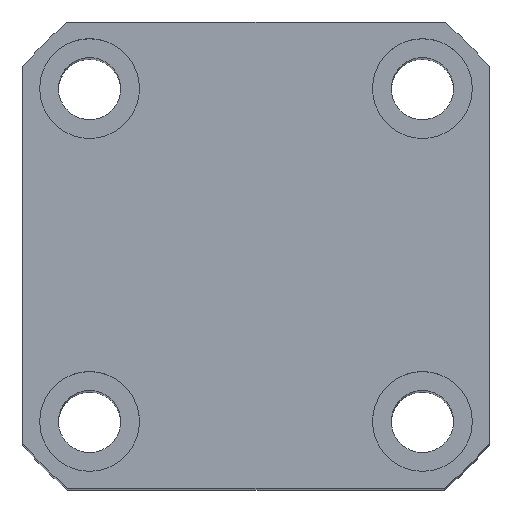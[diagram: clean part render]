
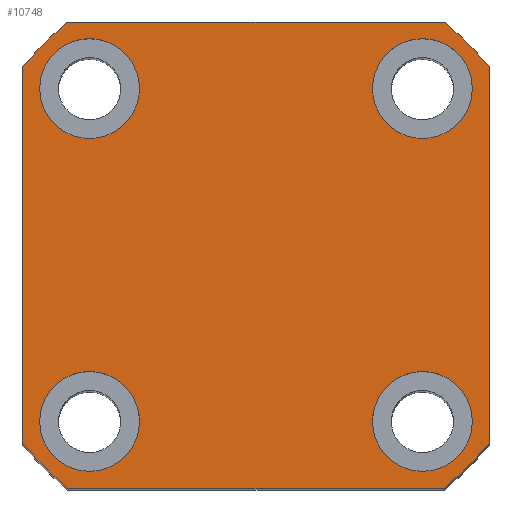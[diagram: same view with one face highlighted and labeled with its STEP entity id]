
A CAD part, top view. The second image highlights one B-rep face of the part: STEP entity #10748.
In plain terms, the highlighted planar face has unit normal (0, 0, 1).
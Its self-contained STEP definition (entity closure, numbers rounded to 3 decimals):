
#17 = VERTEX_POINT ( 'NONE', #8722 ) ;
#123 = CIRCLE ( 'NONE', #11797, 4.5 ) ;
#220 = EDGE_CURVE ( 'NONE', #1073, #8544, #9040, .T. ) ;
#264 = LINE ( 'NONE', #9321, #10986 ) ;
#275 = DIRECTION ( 'NONE',  ( 0., 0., 1. ) ) ;
#511 = EDGE_CURVE ( 'NONE', #11701, #9407, #1971, .T. ) ;
#522 = AXIS2_PLACEMENT_3D ( 'NONE', #11019, #4592, #12082 ) ;
#650 = DIRECTION ( 'NONE',  ( 0., 0., 1. ) ) ;
#916 = CARTESIAN_POINT ( 'NONE',  ( -10.5, 15.002, 103. ) ) ;
#921 = FACE_BOUND ( 'NONE', #2864, .T. ) ;
#996 = ORIENTED_EDGE ( 'NONE', *, *, #8215, .T. ) ;
#1073 = VERTEX_POINT ( 'NONE', #6758 ) ;
#1142 = VERTEX_POINT ( 'NONE', #11851 ) ;
#1180 = DIRECTION ( 'NONE',  ( 0., 0., 1. ) ) ;
#1206 = CARTESIAN_POINT ( 'NONE',  ( -15., 15.002, 103. ) ) ;
#1267 = VECTOR ( 'NONE', #9730, 1000. ) ;
#1315 = CIRCLE ( 'NONE', #13277, 4.5 ) ;
#1332 = CIRCLE ( 'NONE', #10462, 4.5 ) ;
#1732 = PLANE ( 'NONE',  #3772 ) ;
#1777 = EDGE_CURVE ( 'NONE', #10207, #4071, #1332, .T. ) ;
#1869 = AXIS2_PLACEMENT_3D ( 'NONE', #6348, #13853, #7428 ) ;
#1971 = CIRCLE ( 'NONE', #8377, 27. ) ;
#2263 = LINE ( 'NONE', #4484, #13009 ) ;
#2322 = ORIENTED_EDGE ( 'NONE', *, *, #9690, .F. ) ;
#2815 = CARTESIAN_POINT ( 'NONE',  ( 0., 0., 103. ) ) ;
#2864 = EDGE_LOOP ( 'NONE', ( #5750, #4397 ) ) ;
#2880 = EDGE_CURVE ( 'NONE', #8283, #8590, #1315, .T. ) ;
#2999 = ORIENTED_EDGE ( 'NONE', *, *, #13126, .F. ) ;
#3060 = CARTESIAN_POINT ( 'NONE',  ( -15., -14.998, 103. ) ) ;
#3092 = CIRCLE ( 'NONE', #522, 27. ) ;
#3111 = EDGE_CURVE ( 'NONE', #5064, #6732, #13217, .T. ) ;
#3253 = AXIS2_PLACEMENT_3D ( 'NONE', #10042, #3631, #11138 ) ;
#3441 = FACE_OUTER_BOUND ( 'NONE', #8109, .T. ) ;
#3516 = ORIENTED_EDGE ( 'NONE', *, *, #8833, .T. ) ;
#3552 = DIRECTION ( 'NONE',  ( 1., 0., 0. ) ) ;
#3577 = CARTESIAN_POINT ( 'NONE',  ( 21., 16.971, 103. ) ) ;
#3631 = DIRECTION ( 'NONE',  ( 0., 0., 1. ) ) ;
#3725 = CARTESIAN_POINT ( 'NONE',  ( -21., 16.971, 103. ) ) ;
#3772 = AXIS2_PLACEMENT_3D ( 'NONE', #2815, #11396, #4973 ) ;
#3790 = AXIS2_PLACEMENT_3D ( 'NONE', #4945, #12430, #6032 ) ;
#4071 = VERTEX_POINT ( 'NONE', #9846 ) ;
#4089 = LINE ( 'NONE', #12776, #1267 ) ;
#4132 = DIRECTION ( 'NONE',  ( 1., 0., 0. ) ) ;
#4176 = ORIENTED_EDGE ( 'NONE', *, *, #10501, .T. ) ;
#4205 = DIRECTION ( 'NONE',  ( 0., 0., 1. ) ) ;
#4397 = ORIENTED_EDGE ( 'NONE', *, *, #4751, .F. ) ;
#4412 = CARTESIAN_POINT ( 'NONE',  ( 19.5, 15., 103. ) ) ;
#4484 = CARTESIAN_POINT ( 'NONE',  ( -21., -21., 103. ) ) ;
#4579 = CARTESIAN_POINT ( 'NONE',  ( 10.5, 15., 103. ) ) ;
#4592 = DIRECTION ( 'NONE',  ( 0., 0., 1. ) ) ;
#4678 = ORIENTED_EDGE ( 'NONE', *, *, #220, .F. ) ;
#4751 = EDGE_CURVE ( 'NONE', #4071, #10207, #123, .T. ) ;
#4945 = CARTESIAN_POINT ( 'NONE',  ( 0., 0., 103. ) ) ;
#4959 = CARTESIAN_POINT ( 'NONE',  ( -16.971, -21., 103. ) ) ;
#4973 = DIRECTION ( 'NONE',  ( 1., 0., 0. ) ) ;
#5064 = VERTEX_POINT ( 'NONE', #4579 ) ;
#5087 = CARTESIAN_POINT ( 'NONE',  ( -19.5, -14.998, 103. ) ) ;
#5090 = LINE ( 'NONE', #6982, #13325 ) ;
#5188 = ORIENTED_EDGE ( 'NONE', *, *, #11416, .F. ) ;
#5228 = CARTESIAN_POINT ( 'NONE',  ( -15., 15.002, 103. ) ) ;
#5377 = EDGE_LOOP ( 'NONE', ( #10031, #2322 ) ) ;
#5750 = ORIENTED_EDGE ( 'NONE', *, *, #1777, .F. ) ;
#5961 = AXIS2_PLACEMENT_3D ( 'NONE', #6693, #275, #7759 ) ;
#6032 = DIRECTION ( 'NONE',  ( 1., 0., 0. ) ) ;
#6085 = CARTESIAN_POINT ( 'NONE',  ( 10.5, -14.998, 103. ) ) ;
#6285 = FACE_BOUND ( 'NONE', #11087, .T. ) ;
#6308 = DIRECTION ( 'NONE',  ( 1., 0., 0. ) ) ;
#6348 = CARTESIAN_POINT ( 'NONE',  ( 0., 0., 103. ) ) ;
#6693 = CARTESIAN_POINT ( 'NONE',  ( 15., 15., 103. ) ) ;
#6732 = VERTEX_POINT ( 'NONE', #4412 ) ;
#6758 = CARTESIAN_POINT ( 'NONE',  ( 19.5, -14.998, 103. ) ) ;
#6866 = EDGE_CURVE ( 'NONE', #7634, #17, #264, .T. ) ;
#6916 = CIRCLE ( 'NONE', #3790, 27. ) ;
#6982 = CARTESIAN_POINT ( 'NONE',  ( 21., 21., 103. ) ) ;
#7033 = ORIENTED_EDGE ( 'NONE', *, *, #511, .T. ) ;
#7071 = CARTESIAN_POINT ( 'NONE',  ( 15., -14.998, 103. ) ) ;
#7181 = ORIENTED_EDGE ( 'NONE', *, *, #13787, .T. ) ;
#7376 = DIRECTION ( 'NONE',  ( 1., 0., 0. ) ) ;
#7428 = DIRECTION ( 'NONE',  ( 1., 0., 0. ) ) ;
#7538 = ORIENTED_EDGE ( 'NONE', *, *, #10295, .T. ) ;
#7593 = CARTESIAN_POINT ( 'NONE',  ( -15., -14.998, 103. ) ) ;
#7634 = VERTEX_POINT ( 'NONE', #9307 ) ;
#7759 = DIRECTION ( 'NONE',  ( 1., 0., 0. ) ) ;
#8050 = EDGE_CURVE ( 'NONE', #9887, #11701, #4089, .T. ) ;
#8062 = DIRECTION ( 'NONE',  ( 1., 0., 0. ) ) ;
#8109 = EDGE_LOOP ( 'NONE', ( #3516, #7181, #9528, #996, #10942, #7033, #4176, #7538 ) ) ;
#8161 = DIRECTION ( 'NONE',  ( 1., 0., 0. ) ) ;
#8215 = EDGE_CURVE ( 'NONE', #17, #9887, #3092, .T. ) ;
#8257 = CARTESIAN_POINT ( 'NONE',  ( -21., -16.971, 103. ) ) ;
#8278 = EDGE_LOOP ( 'NONE', ( #5188, #13414 ) ) ;
#8279 = CIRCLE ( 'NONE', #3253, 4.5 ) ;
#8283 = VERTEX_POINT ( 'NONE', #11103 ) ;
#8377 = AXIS2_PLACEMENT_3D ( 'NONE', #10252, #10016, #8062 ) ;
#8544 = VERTEX_POINT ( 'NONE', #6085 ) ;
#8590 = VERTEX_POINT ( 'NONE', #5087 ) ;
#8677 = DIRECTION ( 'NONE',  ( 1., 0., 0. ) ) ;
#8722 = CARTESIAN_POINT ( 'NONE',  ( -16.971, 21., 103. ) ) ;
#8833 = EDGE_CURVE ( 'NONE', #1142, #12451, #5090, .T. ) ;
#8839 = DIRECTION ( 'NONE',  ( 0., 0., 1. ) ) ;
#9040 = CIRCLE ( 'NONE', #12240, 4.5 ) ;
#9126 = FACE_BOUND ( 'NONE', #8278, .T. ) ;
#9307 = CARTESIAN_POINT ( 'NONE',  ( 16.971, 21., 103. ) ) ;
#9321 = CARTESIAN_POINT ( 'NONE',  ( -21., 21., 103. ) ) ;
#9407 = VERTEX_POINT ( 'NONE', #4959 ) ;
#9528 = ORIENTED_EDGE ( 'NONE', *, *, #6866, .T. ) ;
#9690 = EDGE_CURVE ( 'NONE', #8590, #8283, #10798, .T. ) ;
#9730 = DIRECTION ( 'NONE',  ( 0., -1., 0. ) ) ;
#9827 = CARTESIAN_POINT ( 'NONE',  ( 15., -14.998, 103. ) ) ;
#9846 = CARTESIAN_POINT ( 'NONE',  ( -19.5, 15.002, 103. ) ) ;
#9887 = VERTEX_POINT ( 'NONE', #3725 ) ;
#10016 = DIRECTION ( 'NONE',  ( 0., 0., 1. ) ) ;
#10031 = ORIENTED_EDGE ( 'NONE', *, *, #2880, .F. ) ;
#10042 = CARTESIAN_POINT ( 'NONE',  ( 15., 15., 103. ) ) ;
#10207 = VERTEX_POINT ( 'NONE', #916 ) ;
#10252 = CARTESIAN_POINT ( 'NONE',  ( 0., 0., 103. ) ) ;
#10274 = CIRCLE ( 'NONE', #12231, 4.5 ) ;
#10295 = EDGE_CURVE ( 'NONE', #11470, #1142, #11481, .T. ) ;
#10406 = DIRECTION ( 'NONE',  ( -1., 0., 0. ) ) ;
#10462 = AXIS2_PLACEMENT_3D ( 'NONE', #1206, #8839, #7376 ) ;
#10501 = EDGE_CURVE ( 'NONE', #9407, #11470, #2263, .T. ) ;
#10558 = DIRECTION ( 'NONE',  ( 0., 0., 1. ) ) ;
#10748 = ADVANCED_FACE ( 'NONE', ( #921, #11991, #6285, #9126, #3441 ), #1732, .T. ) ;
#10798 = CIRCLE ( 'NONE', #13224, 4.5 ) ;
#10942 = ORIENTED_EDGE ( 'NONE', *, *, #8050, .T. ) ;
#10986 = VECTOR ( 'NONE', #10406, 1000. ) ;
#11019 = CARTESIAN_POINT ( 'NONE',  ( 0., 0., 103. ) ) ;
#11087 = EDGE_LOOP ( 'NONE', ( #4678, #2999 ) ) ;
#11103 = CARTESIAN_POINT ( 'NONE',  ( -10.5, -14.998, 103. ) ) ;
#11138 = DIRECTION ( 'NONE',  ( 1., 0., 0. ) ) ;
#11396 = DIRECTION ( 'NONE',  ( 0., 0., 1. ) ) ;
#11416 = EDGE_CURVE ( 'NONE', #6732, #5064, #8279, .T. ) ;
#11470 = VERTEX_POINT ( 'NONE', #13344 ) ;
#11481 = CIRCLE ( 'NONE', #1869, 27. ) ;
#11701 = VERTEX_POINT ( 'NONE', #8257 ) ;
#11797 = AXIS2_PLACEMENT_3D ( 'NONE', #5228, #12713, #6308 ) ;
#11851 = CARTESIAN_POINT ( 'NONE',  ( 21., -16.971, 103. ) ) ;
#11991 = FACE_BOUND ( 'NONE', #5377, .T. ) ;
#12082 = DIRECTION ( 'NONE',  ( 1., 0., 0. ) ) ;
#12105 = DIRECTION ( 'NONE',  ( 1., 0., 0. ) ) ;
#12231 = AXIS2_PLACEMENT_3D ( 'NONE', #7071, #650, #8161 ) ;
#12240 = AXIS2_PLACEMENT_3D ( 'NONE', #9827, #4205, #3552 ) ;
#12430 = DIRECTION ( 'NONE',  ( 0., 0., 1. ) ) ;
#12451 = VERTEX_POINT ( 'NONE', #3577 ) ;
#12713 = DIRECTION ( 'NONE',  ( 0., 0., 1. ) ) ;
#12776 = CARTESIAN_POINT ( 'NONE',  ( -21., 21., 103. ) ) ;
#13009 = VECTOR ( 'NONE', #12105, 1000. ) ;
#13126 = EDGE_CURVE ( 'NONE', #8544, #1073, #10274, .T. ) ;
#13217 = CIRCLE ( 'NONE', #5961, 4.5 ) ;
#13224 = AXIS2_PLACEMENT_3D ( 'NONE', #7593, #1180, #8677 ) ;
#13277 = AXIS2_PLACEMENT_3D ( 'NONE', #3060, #10558, #4132 ) ;
#13325 = VECTOR ( 'NONE', #13408, 1000. ) ;
#13344 = CARTESIAN_POINT ( 'NONE',  ( 16.971, -21., 103. ) ) ;
#13408 = DIRECTION ( 'NONE',  ( 0., 1., 0. ) ) ;
#13414 = ORIENTED_EDGE ( 'NONE', *, *, #3111, .F. ) ;
#13787 = EDGE_CURVE ( 'NONE', #12451, #7634, #6916, .T. ) ;
#13853 = DIRECTION ( 'NONE',  ( 0., 0., 1. ) ) ;
